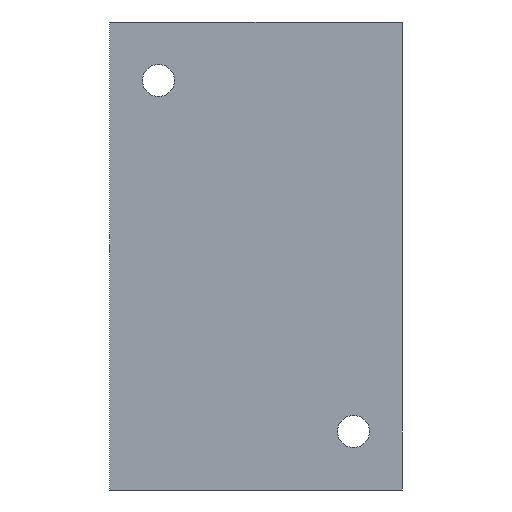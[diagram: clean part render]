
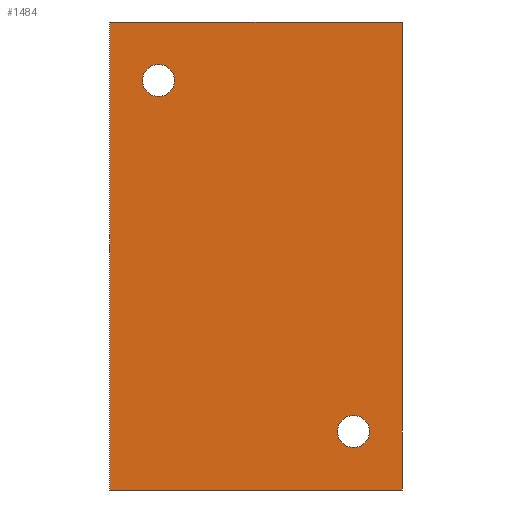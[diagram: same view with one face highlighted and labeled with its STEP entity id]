
A CAD part, front view. The second image highlights one B-rep face of the part: STEP entity #1484.
In plain terms, the highlighted planar face has unit normal (0, -1, 0).
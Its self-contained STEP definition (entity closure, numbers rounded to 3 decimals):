
#24 = FACE_BOUND ( 'NONE', #489, .T. ) ;
#31 = ORIENTED_EDGE ( 'NONE', *, *, #1101, .F. ) ;
#34 = AXIS2_PLACEMENT_3D ( 'NONE', #1118, #994, #1141 ) ;
#35 = DIRECTION ( 'NONE',  ( 1., 0., 0. ) ) ;
#37 = LINE ( 'NONE', #583, #532 ) ;
#83 = VERTEX_POINT ( 'NONE', #720 ) ;
#103 = EDGE_CURVE ( 'NONE', #773, #536, #37, .T. ) ;
#135 = CARTESIAN_POINT ( 'NONE',  ( -10., -9., 16.35 ) ) ;
#141 = ORIENTED_EDGE ( 'NONE', *, *, #1157, .F. ) ;
#159 = EDGE_LOOP ( 'NONE', ( #608, #1323 ) ) ;
#175 = LINE ( 'NONE', #718, #1148 ) ;
#207 = ORIENTED_EDGE ( 'NONE', *, *, #103, .F. ) ;
#210 = CARTESIAN_POINT ( 'NONE',  ( 15., -9., -24. ) ) ;
#211 = CARTESIAN_POINT ( 'NONE',  ( -15., -9., 24. ) ) ;
#307 = DIRECTION ( 'NONE',  ( 0., 0., 1. ) ) ;
#340 = CARTESIAN_POINT ( 'NONE',  ( -15., -9., 24. ) ) ;
#356 = ORIENTED_EDGE ( 'NONE', *, *, #1145, .T. ) ;
#359 = CARTESIAN_POINT ( 'NONE',  ( -10., -9., 18. ) ) ;
#418 = AXIS2_PLACEMENT_3D ( 'NONE', #359, #758, #1029 ) ;
#428 = VERTEX_POINT ( 'NONE', #544 ) ;
#455 = DIRECTION ( 'NONE',  ( 0., 0., -1. ) ) ;
#487 = VERTEX_POINT ( 'NONE', #824 ) ;
#489 = EDGE_LOOP ( 'NONE', ( #141, #31 ) ) ;
#496 = EDGE_CURVE ( 'NONE', #83, #1139, #1357, .T. ) ;
#499 = CARTESIAN_POINT ( 'NONE',  ( -15., -9., -24. ) ) ;
#532 = VECTOR ( 'NONE', #455, 1000. ) ;
#536 = VERTEX_POINT ( 'NONE', #210 ) ;
#544 = CARTESIAN_POINT ( 'NONE',  ( -15., -9., -24. ) ) ;
#583 = CARTESIAN_POINT ( 'NONE',  ( 15., -9., 24. ) ) ;
#593 = AXIS2_PLACEMENT_3D ( 'NONE', #1370, #728, #995 ) ;
#608 = ORIENTED_EDGE ( 'NONE', *, *, #496, .F. ) ;
#641 = VECTOR ( 'NONE', #1026, 1000. ) ;
#670 = AXIS2_PLACEMENT_3D ( 'NONE', #976, #1525, #307 ) ;
#718 = CARTESIAN_POINT ( 'NONE',  ( -15., -9., 24. ) ) ;
#720 = CARTESIAN_POINT ( 'NONE',  ( 10., -9., -19.65 ) ) ;
#727 = FACE_BOUND ( 'NONE', #159, .T. ) ;
#728 = DIRECTION ( 'NONE',  ( 0., -1., 0. ) ) ;
#758 = DIRECTION ( 'NONE',  ( 0., -1., 0. ) ) ;
#765 = DIRECTION ( 'NONE',  ( 1., 0., 0. ) ) ;
#773 = VERTEX_POINT ( 'NONE', #1105 ) ;
#778 = DIRECTION ( 'NONE',  ( 0., 0., -1. ) ) ;
#824 = CARTESIAN_POINT ( 'NONE',  ( -10., -9., 19.65 ) ) ;
#902 = LINE ( 'NONE', #499, #1364 ) ;
#916 = ORIENTED_EDGE ( 'NONE', *, *, #1584, .T. ) ;
#961 = EDGE_LOOP ( 'NONE', ( #356, #207, #1452, #916 ) ) ;
#976 = CARTESIAN_POINT ( 'NONE',  ( -15., -9., 24. ) ) ;
#994 = DIRECTION ( 'NONE',  ( 0., -1., 0. ) ) ;
#995 = DIRECTION ( 'NONE',  ( 0., 0., -1. ) ) ;
#1026 = DIRECTION ( 'NONE',  ( 0., 0., -1. ) ) ;
#1029 = DIRECTION ( 'NONE',  ( 0., 0., -1. ) ) ;
#1053 = VERTEX_POINT ( 'NONE', #211 ) ;
#1082 = CIRCLE ( 'NONE', #34, 1.65 ) ;
#1101 = EDGE_CURVE ( 'NONE', #487, #1281, #1159, .T. ) ;
#1105 = CARTESIAN_POINT ( 'NONE',  ( 15., -9., 24. ) ) ;
#1118 = CARTESIAN_POINT ( 'NONE',  ( 10., -9., -18. ) ) ;
#1139 = VERTEX_POINT ( 'NONE', #1155 ) ;
#1141 = DIRECTION ( 'NONE',  ( 0., 0., -1. ) ) ;
#1145 = EDGE_CURVE ( 'NONE', #428, #536, #902, .T. ) ;
#1148 = VECTOR ( 'NONE', #35, 1000. ) ;
#1155 = CARTESIAN_POINT ( 'NONE',  ( 10., -9., -16.35 ) ) ;
#1157 = EDGE_CURVE ( 'NONE', #1281, #487, #1172, .T. ) ;
#1159 = CIRCLE ( 'NONE', #418, 1.65 ) ;
#1172 = CIRCLE ( 'NONE', #1457, 1.65 ) ;
#1249 = FACE_OUTER_BOUND ( 'NONE', #961, .T. ) ;
#1281 = VERTEX_POINT ( 'NONE', #135 ) ;
#1323 = ORIENTED_EDGE ( 'NONE', *, *, #1491, .F. ) ;
#1357 = CIRCLE ( 'NONE', #593, 1.65 ) ;
#1364 = VECTOR ( 'NONE', #765, 1000. ) ;
#1370 = CARTESIAN_POINT ( 'NONE',  ( 10., -9., -18. ) ) ;
#1429 = LINE ( 'NONE', #340, #641 ) ;
#1438 = CARTESIAN_POINT ( 'NONE',  ( -10., -9., 18. ) ) ;
#1452 = ORIENTED_EDGE ( 'NONE', *, *, #1500, .F. ) ;
#1457 = AXIS2_PLACEMENT_3D ( 'NONE', #1438, #1723, #778 ) ;
#1484 = ADVANCED_FACE ( 'NONE', ( #1249, #24, #727 ), #1514, .F. ) ;
#1491 = EDGE_CURVE ( 'NONE', #1139, #83, #1082, .T. ) ;
#1500 = EDGE_CURVE ( 'NONE', #1053, #773, #175, .T. ) ;
#1514 = PLANE ( 'NONE',  #670 ) ;
#1525 = DIRECTION ( 'NONE',  ( 0., 1., 0. ) ) ;
#1584 = EDGE_CURVE ( 'NONE', #1053, #428, #1429, .T. ) ;
#1723 = DIRECTION ( 'NONE',  ( 0., -1., 0. ) ) ;
